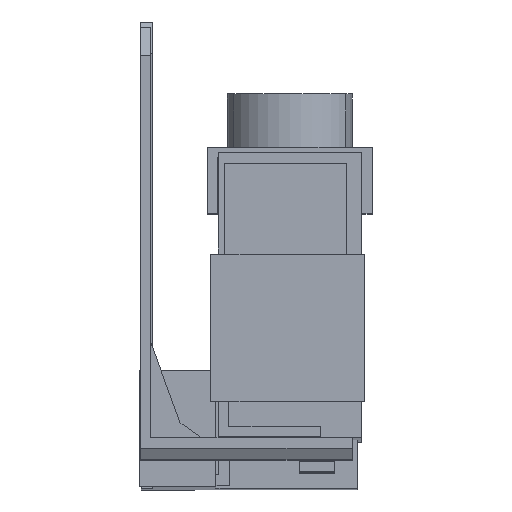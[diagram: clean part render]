
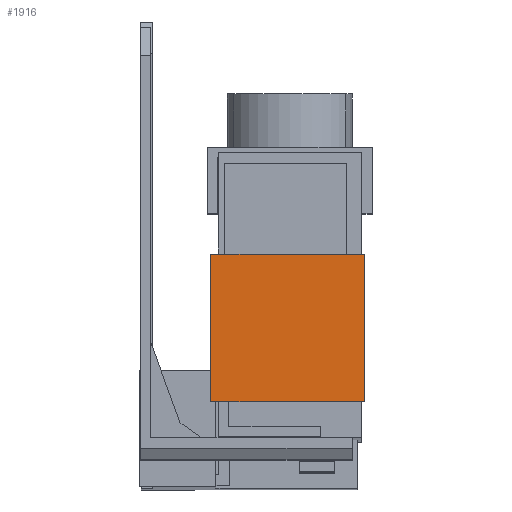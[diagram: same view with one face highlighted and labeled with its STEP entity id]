
A CAD part, front view. The second image highlights one B-rep face of the part: STEP entity #1916.
In plain terms, the highlighted planar face has unit normal (0, -1, 0.003).
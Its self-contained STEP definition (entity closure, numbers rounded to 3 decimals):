
#325 = AXIS2_PLACEMENT_3D ( 'NONE', #4567, #4573, #4574 ) ;
#597 = VERTEX_POINT ( 'NONE', #2384 ) ;
#602 = VERTEX_POINT ( 'NONE', #2389 ) ;
#619 = VERTEX_POINT ( 'NONE', #2406 ) ;
#628 = VERTEX_POINT ( 'NONE', #2415 ) ;
#1046 = VECTOR ( 'NONE', #2461, 1000. ) ;
#1056 = LINE ( 'NONE', #2458, #1046 ) ;
#1338 = EDGE_CURVE ( 'NONE', #602, #597, #1056, .T. ) ;
#1581 = EDGE_CURVE ( 'NONE', #619, #597, #3526, .T. ) ;
#1656 = EDGE_CURVE ( 'NONE', #602, #628, #3623, .T. ) ;
#1713 = EDGE_CURVE ( 'NONE', #628, #619, #3767, .T. ) ;
#1916 = ADVANCED_FACE ( 'NONE', ( #4096 ), #4564, .T. ) ;
#2384 = CARTESIAN_POINT ( 'NONE',  ( 31.95, -31.509, -40.315 ) ) ;
#2389 = CARTESIAN_POINT ( 'NONE',  ( 10.05, -31.509, -40.315 ) ) ;
#2406 = CARTESIAN_POINT ( 'NONE',  ( 31.95, -31.452, -19.316 ) ) ;
#2415 = CARTESIAN_POINT ( 'NONE',  ( 10.05, -31.452, -19.316 ) ) ;
#2458 = CARTESIAN_POINT ( 'NONE',  ( 9.3, -31.509, -40.315 ) ) ;
#2461 = DIRECTION ( 'NONE',  ( 1., 0., 0. ) ) ;
#2994 = CARTESIAN_POINT ( 'NONE',  ( 31.95, -31.452, -19.316 ) ) ;
#2995 = DIRECTION ( 'NONE',  ( 0., -0.003, -1. ) ) ;
#3153 = CARTESIAN_POINT ( 'NONE',  ( 10.05, -31.509, -40.315 ) ) ;
#3154 = DIRECTION ( 'NONE',  ( 0., 0.003, 1. ) ) ;
#3282 = CARTESIAN_POINT ( 'NONE',  ( 9.3, -31.452, -19.316 ) ) ;
#3283 = DIRECTION ( 'NONE',  ( 1., 0., 0. ) ) ;
#3526 = LINE ( 'NONE', #2994, #3527 ) ;
#3527 = VECTOR ( 'NONE', #2995, 1000. ) ;
#3623 = LINE ( 'NONE', #3153, #3663 ) ;
#3663 = VECTOR ( 'NONE', #3154, 1000. ) ;
#3767 = LINE ( 'NONE', #3282, #3768 ) ;
#3768 = VECTOR ( 'NONE', #3283, 1000. ) ;
#4096 = FACE_OUTER_BOUND ( 'NONE', #4892, .T. ) ;
#4564 = PLANE ( 'NONE',  #325 ) ;
#4567 = CARTESIAN_POINT ( 'NONE',  ( 9.3, -31.509, -40.315 ) ) ;
#4573 = DIRECTION ( 'NONE',  ( 0., -1., 0.003 ) ) ;
#4574 = DIRECTION ( 'NONE',  ( -1., 0., 0. ) ) ;
#4892 = EDGE_LOOP ( 'NONE', ( #5850, #5851, #5852, #5853 ) ) ;
#5850 = ORIENTED_EDGE ( 'NONE', *, *, #1713, .F. ) ;
#5851 = ORIENTED_EDGE ( 'NONE', *, *, #1656, .F. ) ;
#5852 = ORIENTED_EDGE ( 'NONE', *, *, #1338, .T. ) ;
#5853 = ORIENTED_EDGE ( 'NONE', *, *, #1581, .F. ) ;
